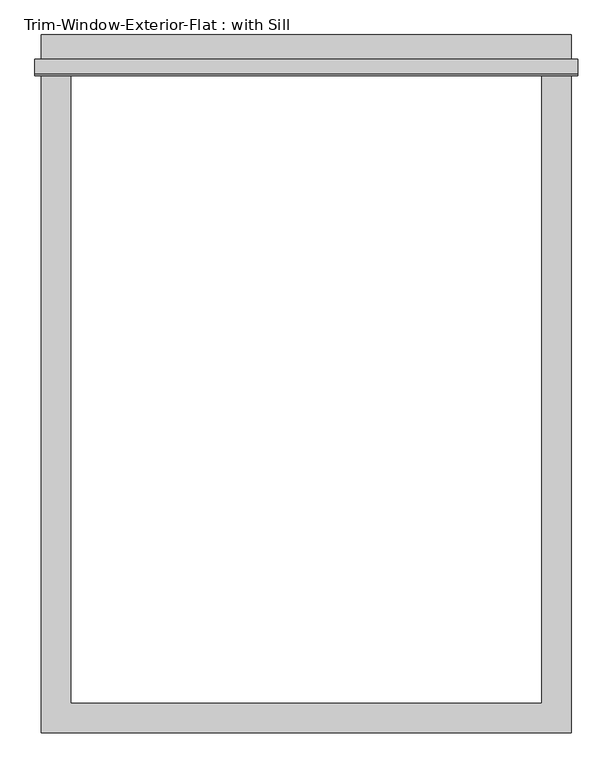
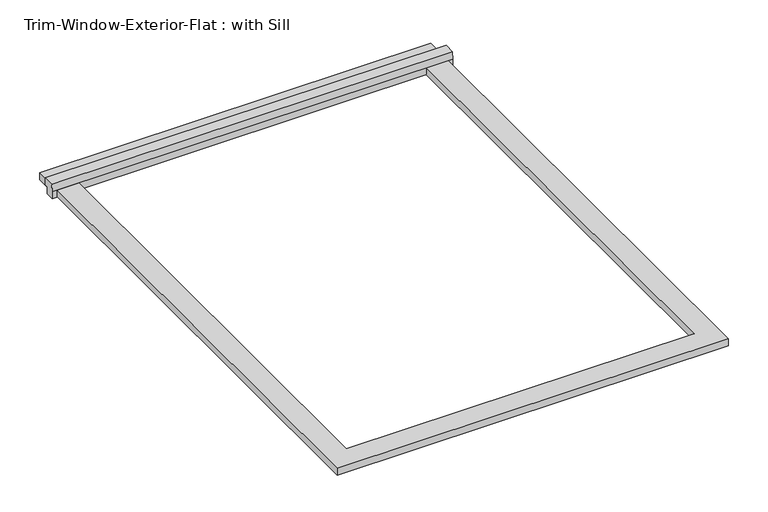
"""IFC4 building model written with IfcOpenShell, lengths in millimetres: proxy geometry, Trim-Window-Exterior-Flat : with Sill."""

from ifc_helpers import new_model, si_unit, frame, origin, origin_with_axes, place, context, project, spatial, polyline, outline, extrude, source, transform, mapped, element, save


def trim_window_exterior_flat_with_sill_0ab60cae(model_context):
    return source(origin(), model_context, "Body", "SweptSolid", [
        extrude(outline(polyline([(514.65, 1242.1823709), (-514.65, 1242.1823709), (-514.65, 1299.3323709), (514.65, 1299.3323709), (514.65, 1242.1823709)])), origin_with_axes(), (0.0, 0.0, 1.0), 19.05),
        extrude(outline(polyline([(1251.75, 38.1), (1251.75, 19.05), (1242.1823709, 19.05), (1242.1823709, 0.0), (1220.0, 0.0), (1220.0, 19.05), (1222.4580645, 38.1), (1251.75, 38.1)])), frame((-527.35, 0.0, 0.0), z_axis=(1.0, 0.0, 0.0), x_axis=(0.0, 1.0, 0.0)), (0.0, 0.0, 1.0), 1054.7),
        extrude(outline(polyline([(-514.65, -57.15), (-514.65, 1220.0), (-457.5, 1220.0), (-457.5, 0.0), (457.5, 0.0), (457.5, 1220.0), (514.65, 1220.0), (514.65, -57.15), (-514.65, -57.15)])), origin_with_axes(), (0.0, 0.0, 1.0), 19.05),
    ])


if __name__ == "__main__":
    model = new_model("IFC4")
    model_context = context("Model", 3, world=origin())
    ifc_project = project(units=[si_unit("LENGTHUNIT", "METRE", prefix="MILLI")], contexts=[model_context])
    site = spatial("IfcSite", under=ifc_project)
    building = spatial("IfcBuilding", under=site)
    placement = place(None, origin())
    trim_window_exterior_flat_with_sill_shape = trim_window_exterior_flat_with_sill_0ab60cae(model_context)
    element("IfcBuildingElementProxy", 1, Name="Trim-Window-Exterior-Flat : with Sill", ObjectType="Trim-Window-Exterior-Flat : with Sill", at=placement, inside=building, context=model_context, shape_type="MappedRepresentation", body=[
        mapped(trim_window_exterior_flat_with_sill_shape, transform((0.0, 0.0, 0.0), x_axis=(1.0, 0.0, 0.0), y_axis=(0.0, 1.0, 0.0), z_axis=(0.0, 0.0, 1.0))),
    ])
    save(model, "model.ifc")
